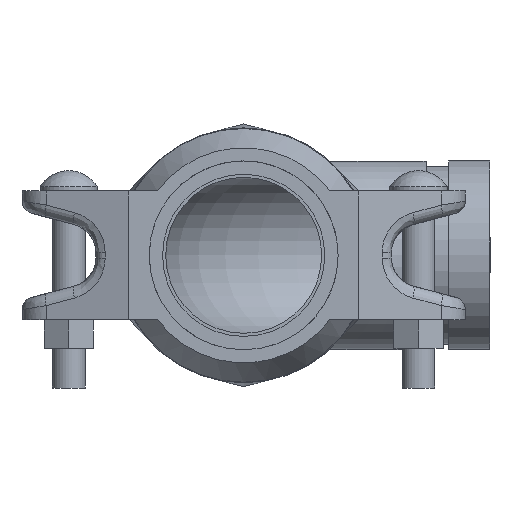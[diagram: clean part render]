
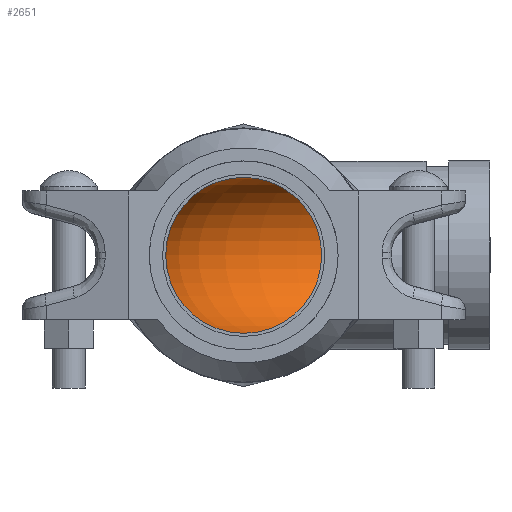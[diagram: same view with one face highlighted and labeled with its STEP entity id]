
A CAD part, left-side view. The second image highlights one B-rep face of the part: STEP entity #2651.
In plain terms, the highlighted toroidal (fillet/blend) face has major radius 72.238 mm and minor radius 31.356 mm.
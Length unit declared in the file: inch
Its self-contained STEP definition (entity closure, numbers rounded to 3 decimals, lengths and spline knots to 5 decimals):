
#104=TOROIDAL_SURFACE('',#2912,2.844,1.2345);
#570=FACE_OUTER_BOUND('',#723,.T.);
#723=EDGE_LOOP('',(#1695,#1696,#1697,#1698,#1699,#1700));
#897=CIRCLE('',#2909,1.2345);
#898=CIRCLE('',#2910,1.2345);
#900=CIRCLE('',#2913,1.2345);
#901=CIRCLE('',#2914,1.6095);
#902=CIRCLE('',#2915,1.2345);
#1039=VERTEX_POINT('',#4182);
#1040=VERTEX_POINT('',#4183);
#1042=VERTEX_POINT('',#4190);
#1043=VERTEX_POINT('',#4191);
#1297=EDGE_CURVE('',#1039,#1040,#897,.T.);
#1298=EDGE_CURVE('',#1040,#1039,#898,.T.);
#1301=EDGE_CURVE('',#1042,#1043,#900,.T.);
#1302=EDGE_CURVE('',#1043,#1040,#901,.T.);
#1303=EDGE_CURVE('',#1043,#1042,#902,.T.);
#1695=ORIENTED_EDGE('',*,*,#1301,.T.);
#1696=ORIENTED_EDGE('',*,*,#1302,.T.);
#1697=ORIENTED_EDGE('',*,*,#1297,.F.);
#1698=ORIENTED_EDGE('',*,*,#1298,.F.);
#1699=ORIENTED_EDGE('',*,*,#1302,.F.);
#1700=ORIENTED_EDGE('',*,*,#1303,.T.);
#2651=ADVANCED_FACE('',(#570),#104,.F.);
#2909=AXIS2_PLACEMENT_3D('',#4184,#3246,#3247);
#2910=AXIS2_PLACEMENT_3D('',#4185,#3248,#3249);
#2912=AXIS2_PLACEMENT_3D('',#4189,#3253,#3254);
#2913=AXIS2_PLACEMENT_3D('',#4192,#3255,#3256);
#2914=AXIS2_PLACEMENT_3D('',#4193,#3257,#3258);
#2915=AXIS2_PLACEMENT_3D('',#4194,#3259,#3260);
#3246=DIRECTION('center_axis',(0.,1.,0.));
#3247=DIRECTION('ref_axis',(1.,0.,0.));
#3248=DIRECTION('center_axis',(0.,1.,0.));
#3249=DIRECTION('ref_axis',(1.,0.,0.));
#3253=DIRECTION('center_axis',(0.,0.,1.));
#3254=DIRECTION('ref_axis',(1.,0.,0.));
#3255=DIRECTION('center_axis',(1.,0.,0.));
#3256=DIRECTION('ref_axis',(0.,-1.,0.));
#3257=DIRECTION('center_axis',(0.,0.,1.));
#3258=DIRECTION('ref_axis',(1.,0.,0.));
#3259=DIRECTION('center_axis',(1.,0.,0.));
#3260=DIRECTION('ref_axis',(0.,-1.,0.));
#4182=CARTESIAN_POINT('',(-1.2345,-2.844,0.));
#4183=CARTESIAN_POINT('',(1.2345,-2.844,0.));
#4184=CARTESIAN_POINT('Origin',(0.,-2.844,
0.));
#4185=CARTESIAN_POINT('Origin',(0.,-2.844,
0.));
#4189=CARTESIAN_POINT('Origin',(2.844,-2.844,0.));
#4190=CARTESIAN_POINT('',(2.844,1.2345,0.));
#4191=CARTESIAN_POINT('',(2.844,-1.2345,0.));
#4192=CARTESIAN_POINT('Origin',(2.844,0.,0.));
#4193=CARTESIAN_POINT('Origin',(2.844,-2.844,0.));
#4194=CARTESIAN_POINT('Origin',(2.844,0.,0.));
